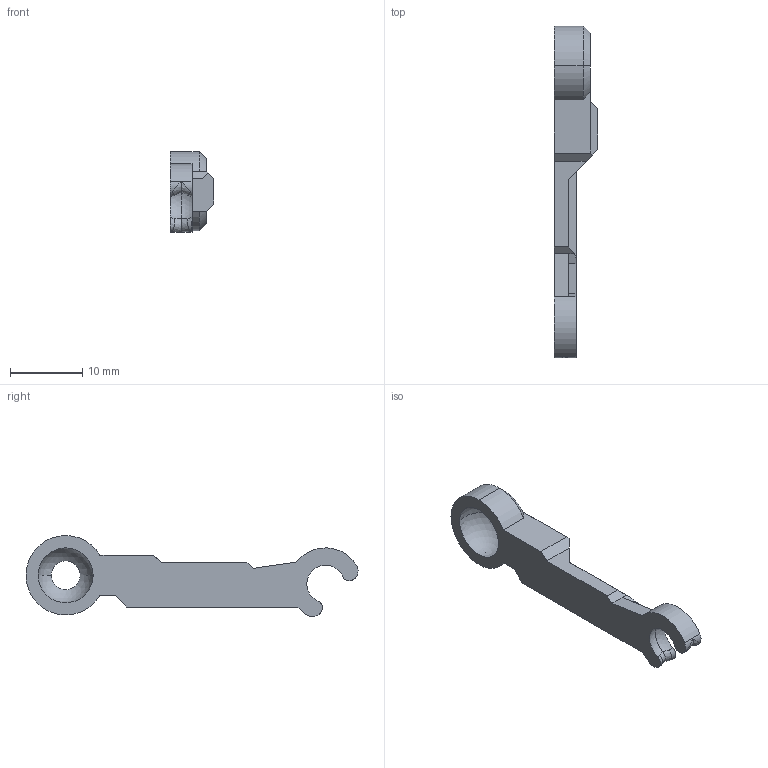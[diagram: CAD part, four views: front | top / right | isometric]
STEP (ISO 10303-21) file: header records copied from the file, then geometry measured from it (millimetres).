
FILE_DESCRIPTION (( 'STEP AP214' ), '1' );
FILE_NAME ('B1-arm-upper-arm-R.step', '2023-08-03T13:49:33', ( '' ), ( '' ), 'SwSTEP 2.0', 'SolidWorks 2020', '' );
FILE_SCHEMA (( 'AUTOMOTIVE_DESIGN' ));
Length unit declared in the file: millimetre
Products named in the file (1): B1-arm-upper-arm-R
Bounding box: 6 x 46 x 11.2 mm (x, y, z)
Volume: 929.6 mm3; surface area: 1085.7 mm2
Topology: 1 solids, 1 shells, 49 faces, 136 edges, 87 vertices
Faces by surface type: plane 23, cylinder 11, bspline 8, sphere 4, cone 3
Entity records: 2020 total; most frequent: CARTESIAN_POINT 827, ORIENTED_EDGE 262, DIRECTION 216, EDGE_CURVE 131, VERTEX_POINT 84, AXIS2_PLACEMENT_3D 73, VECTOR 70, LINE 70
